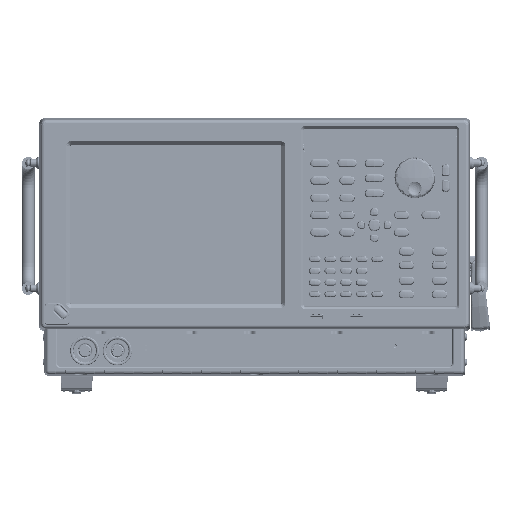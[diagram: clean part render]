
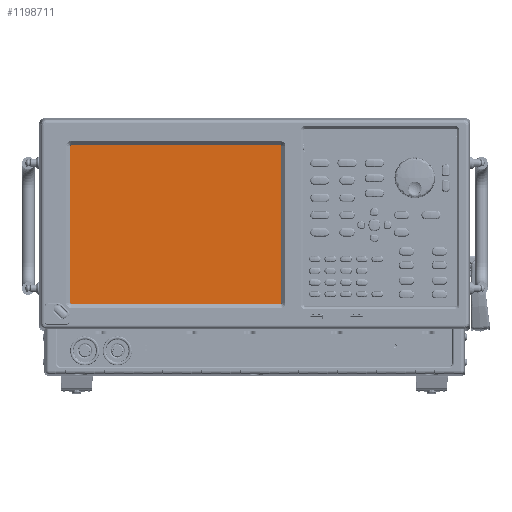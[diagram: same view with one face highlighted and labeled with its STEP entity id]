
A CAD part, top view. The second image highlights one B-rep face of the part: STEP entity #1198711.
In plain terms, the highlighted planar face has unit normal (0, 0, 1).
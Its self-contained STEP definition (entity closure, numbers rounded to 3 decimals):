
#1197287=DIRECTION('',(0.,-1.,0.));
#1197288=VECTOR('',#1197287,6.37);
#1197289=CARTESIAN_POINT('',(-4.177,3.215,
-0.028));
#1197290=LINE('',#1197289,#1197288);
#1197294=DIRECTION('',(-1.,0.,0.));
#1197295=VECTOR('',#1197294,8.48);
#1197296=CARTESIAN_POINT('',(4.303,3.215,
-0.028));
#1197297=LINE('',#1197296,#1197295);
#1197301=DIRECTION('',(0.,1.,0.));
#1197302=VECTOR('',#1197301,6.37);
#1197303=CARTESIAN_POINT('',(4.303,-3.156,
-0.028));
#1197304=LINE('',#1197303,#1197302);
#1197308=DIRECTION('',(1.,0.,0.));
#1197309=VECTOR('',#1197308,8.48);
#1197310=CARTESIAN_POINT('',(-4.177,-3.156,
-0.028));
#1197311=LINE('',#1197310,#1197309);
#1198438=CARTESIAN_POINT('',(-4.177,3.215,
-0.028));
#1198439=CARTESIAN_POINT('',(-4.177,-3.156,
-0.028));
#1198440=VERTEX_POINT('',#1198438);
#1198441=VERTEX_POINT('',#1198439);
#1198442=CARTESIAN_POINT('',(4.303,-3.156,
-0.028));
#1198443=VERTEX_POINT('',#1198442);
#1198444=CARTESIAN_POINT('',(4.303,3.215,
-0.028));
#1198445=VERTEX_POINT('',#1198444);
#1198700=CARTESIAN_POINT('',(0.,0.,-0.028));
#1198701=DIRECTION('',(0.,0.,1.));
#1198702=DIRECTION('',(1.,0.,0.));
#1198703=AXIS2_PLACEMENT_3D('',#1198700,#1198701,#1198702);
#1198704=PLANE('',#1198703);
#1198705=ORIENTED_EDGE('',*,*,#1198651,.F.);
#1198706=ORIENTED_EDGE('',*,*,#1198668,.F.);
#1198707=ORIENTED_EDGE('',*,*,#1198680,.F.);
#1198708=ORIENTED_EDGE('',*,*,#1198693,.F.);
#1198709=EDGE_LOOP('',(#1198705,#1198706,#1198707,#1198708));
#1198710=FACE_OUTER_BOUND('',#1198709,.F.);
#1198711=ADVANCED_FACE('',(#1198710),#1198704,.T.);
#1198651=EDGE_CURVE('',#1198440,#1198441,#1197290,.T.);
#1198668=EDGE_CURVE('',#1198445,#1198440,#1197297,.T.);
#1198680=EDGE_CURVE('',#1198443,#1198445,#1197304,.T.);
#1198693=EDGE_CURVE('',#1198441,#1198443,#1197311,.T.);
